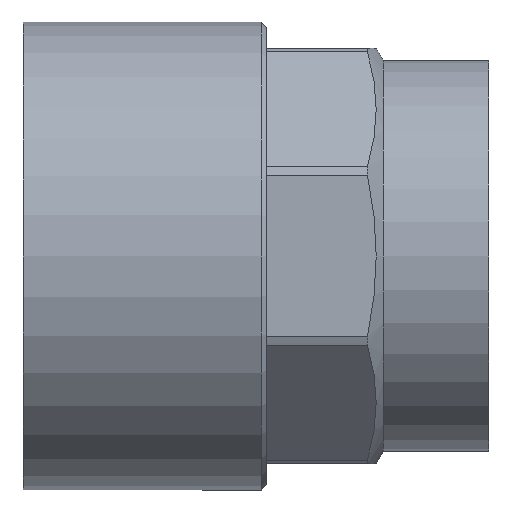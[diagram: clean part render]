
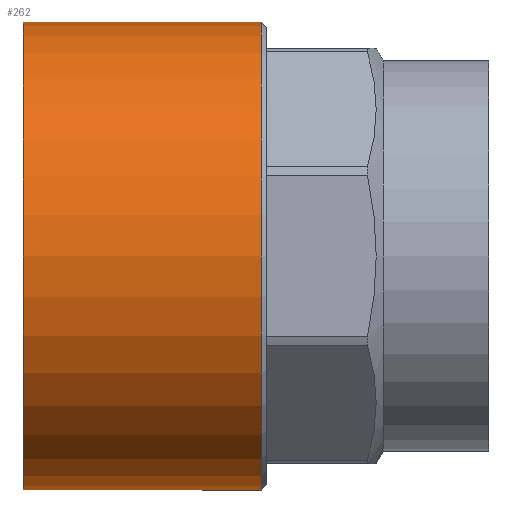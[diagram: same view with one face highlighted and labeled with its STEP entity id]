
A CAD part, front view. The second image highlights one B-rep face of the part: STEP entity #262.
In plain terms, the highlighted cylindrical face has radius 23.1 mm (diameter 46.2 mm), a full revolution.
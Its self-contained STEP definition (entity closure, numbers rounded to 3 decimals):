
#73=CARTESIAN_POINT('',(0.5,23.1,0.));
#74=VERTEX_POINT('',#73);
#75=CARTESIAN_POINT('',(0.5,0.,0.0));
#76=DIRECTION('',(1.0,0.0,0.0));
#77=DIRECTION('',(0.0,-1.0,0.0));
#78=AXIS2_PLACEMENT_3D('',#75,#76,#77);
#79=CIRCLE('',#78,23.1);
#80=EDGE_CURVE('',#74,#74,#79,.T.);
#243=CARTESIAN_POINT('',(-11.,0.,0.0));
#244=DIRECTION('',(1.0,0.,0.0));
#245=DIRECTION('',(0.0,1.0,0.0));
#246=AXIS2_PLACEMENT_3D('',#243,#244,#245);
#247=CYLINDRICAL_SURFACE('',#246,23.1);
#248=CARTESIAN_POINT('',(-23.,23.1,0.0));
#249=VERTEX_POINT('',#248);
#250=CARTESIAN_POINT('',(-23.,0.,0.0));
#251=DIRECTION('',(1.0,0.0,0.0));
#252=DIRECTION('',(0.0,1.0,0.0));
#253=AXIS2_PLACEMENT_3D('',#250,#251,#252);
#254=CIRCLE('',#253,23.1);
#255=EDGE_CURVE('',#249,#249,#254,.T.);
#256=ORIENTED_EDGE('',*,*,#255,.T.);
#257=EDGE_LOOP('',(#256));
#258=FACE_OUTER_BOUND('',#257,.T.);
#259=ORIENTED_EDGE('',*,*,#80,.F.);
#260=EDGE_LOOP('',(#259));
#261=FACE_BOUND('',#260,.T.);
#262=ADVANCED_FACE('',(#258,#261),#247,.T.);
